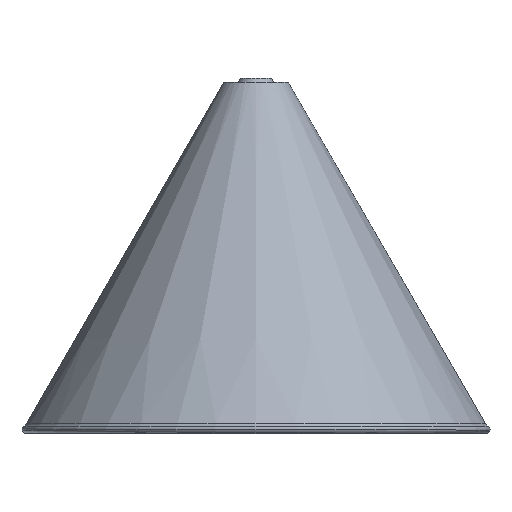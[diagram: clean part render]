
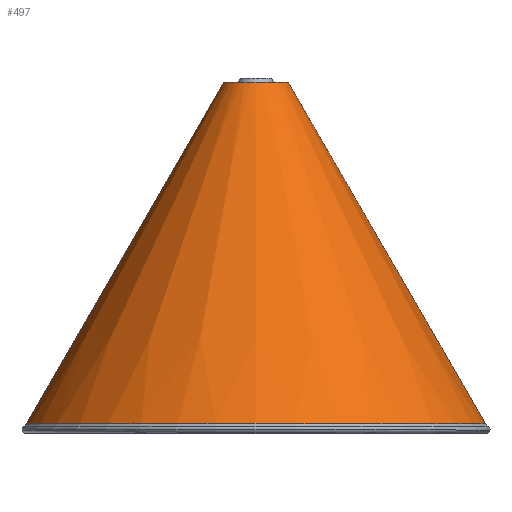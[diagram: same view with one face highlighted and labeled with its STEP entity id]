
A CAD part, top view. The second image highlights one B-rep face of the part: STEP entity #497.
In plain terms, the highlighted conical face has half-angle 30 degrees and reference radius 41.792 mm.
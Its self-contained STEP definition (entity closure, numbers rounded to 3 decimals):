
#254=CARTESIAN_POINT('',(0.,54.361,0.));
#255=DIRECTION('',(0.,-1.,0.));
#256=DIRECTION('',(1.,0.,0.));
#257=AXIS2_PLACEMENT_3D('',#254,#255,#256);
#259=DIRECTION('',(0.5,0.866,0.));
#260=VECTOR('',#259,125.935);
#261=CARTESIAN_POINT('',(-73.275,54.361,0.));
#262=LINE('',#261,#260);
#263=CARTESIAN_POINT('',(0.,163.424,0.));
#264=DIRECTION('',(0.,1.,0.));
#265=DIRECTION('',(-1.,0.,0.));
#266=AXIS2_PLACEMENT_3D('',#263,#264,#265);
#273=DIRECTION('',(-0.5,0.866,0.));
#274=VECTOR('',#273,125.935);
#275=CARTESIAN_POINT('',(73.275,54.361,0.));
#276=LINE('',#275,#274);
#420=CARTESIAN_POINT('',(10.308,163.424,0.));
#421=CARTESIAN_POINT('',(-10.308,163.424,0.));
#422=VERTEX_POINT('',#420);
#423=VERTEX_POINT('',#421);
#440=CARTESIAN_POINT('',(-73.275,54.361,0.));
#441=CARTESIAN_POINT('',(73.275,54.361,0.));
#442=VERTEX_POINT('',#440);
#443=VERTEX_POINT('',#441);
#482=CARTESIAN_POINT('',(0.,108.893,0.));
#483=DIRECTION('',(0.,-1.,0.));
#484=DIRECTION('',(-1.,0.,0.));
#485=AXIS2_PLACEMENT_3D('',#482,#483,#484);
#486=CONICAL_SURFACE('',#485,41.792,30.);
#488=ORIENTED_EDGE('',*,*,#487,.T.);
#490=ORIENTED_EDGE('',*,*,#489,.T.);
#492=ORIENTED_EDGE('',*,*,#491,.T.);
#494=ORIENTED_EDGE('',*,*,#493,.F.);
#495=EDGE_LOOP('',(#488,#490,#492,#494));
#496=FACE_OUTER_BOUND('',#495,.F.);
#497=ADVANCED_FACE('',(#496),#486,.T.);
#258=CIRCLE('',#257,73.275);
#267=CIRCLE('',#266,10.308);
#487=EDGE_CURVE('',#443,#442,#258,.T.);
#489=EDGE_CURVE('',#442,#423,#262,.T.);
#491=EDGE_CURVE('',#423,#422,#267,.T.);
#493=EDGE_CURVE('',#443,#422,#276,.T.);
